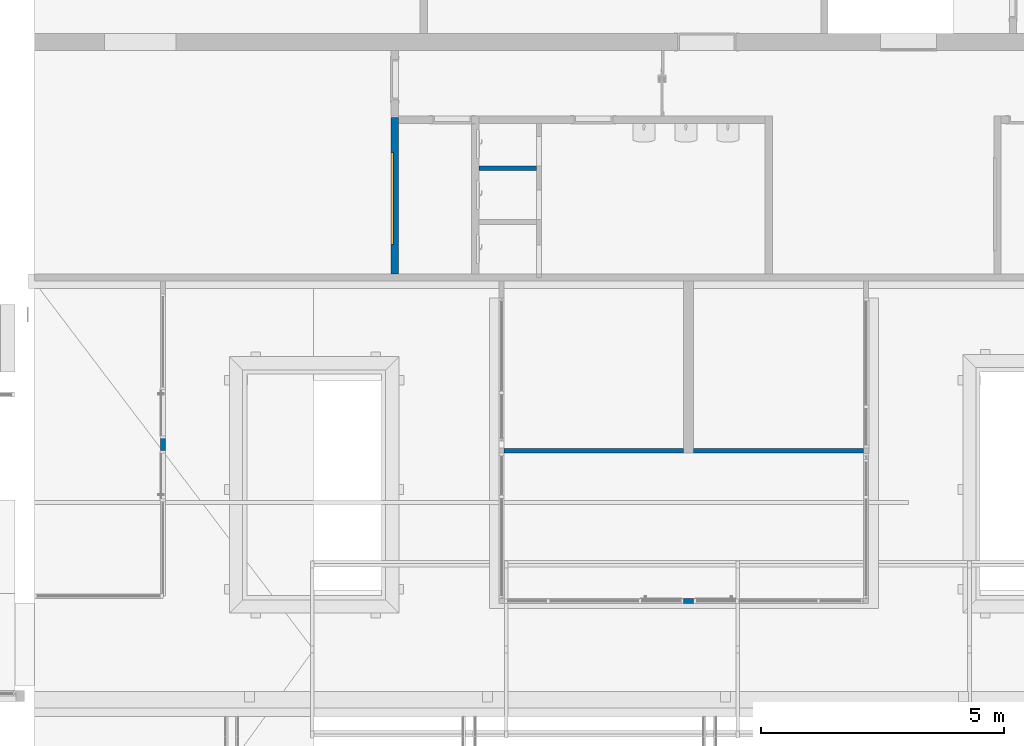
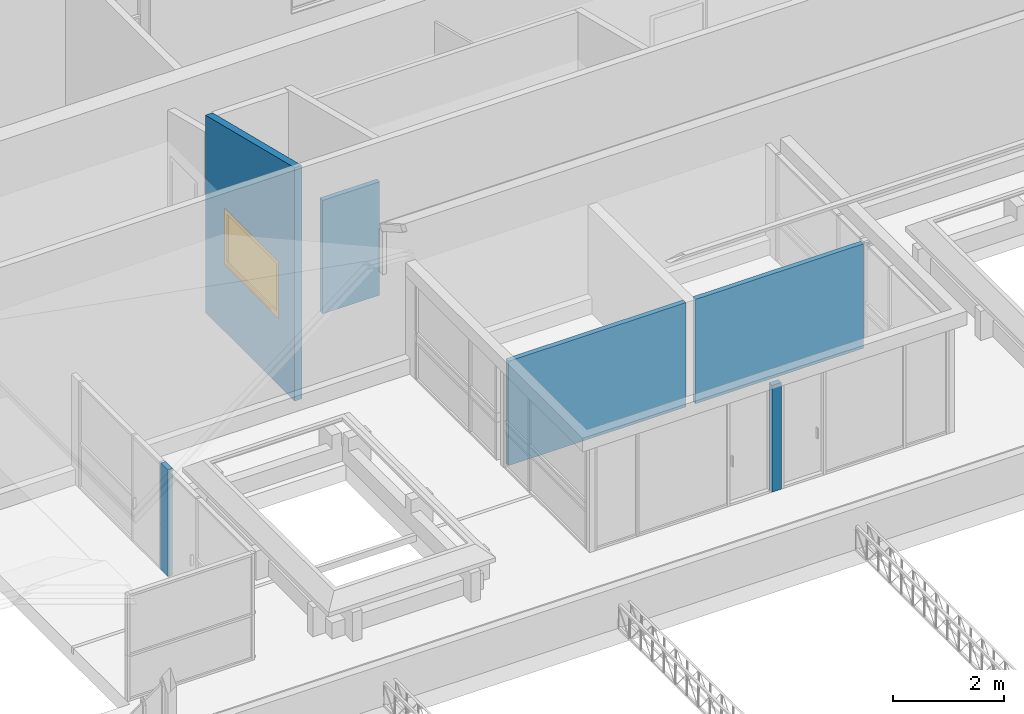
# One storey, part 118 of 153: 5 walls, 1 window, 2 openings.
"""IFC4 building model written with IfcOpenShell, lengths in metres."""

from ifc_helpers import new_model, entity, si_unit, converted_unit, derived_unit, direction, frame, origin, place, context, subcontext, project, spatial, indexed_curve, outline, extrude, polygons, source, transform, mapped, material, constituent, constituent_set, type_object, type_shapes, element, fill, save


model = new_model("IFC4")

# Units and contexts
model_context = context("Model", 3, precision=1e-05, world=origin(), true_north=direction((6.123031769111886e-17, 1.0)))
body_context = subcontext(model_context, "Body", "Model", "MODEL_VIEW")
ifc_project = project(units=[si_unit("LENGTHUNIT", "METRE"), si_unit("AREAUNIT", "SQUARE_METRE"), si_unit("VOLUMEUNIT", "CUBIC_METRE"), converted_unit("PLANEANGLEUNIT", "DEGREE", entity("IfcRatioMeasure", 0.017453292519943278), si_unit("PLANEANGLEUNIT", "RADIAN"), dimensions=[0, 0, 0, 0, 0, 0, 0]), si_unit("MASSUNIT", "GRAM", prefix="KILO"), derived_unit("MASSDENSITYUNIT", [(si_unit("MASSUNIT", "GRAM", prefix="KILO"), 1), (si_unit("LENGTHUNIT", "METRE"), -3)]), derived_unit("MOMENTOFINERTIAUNIT", [(si_unit("LENGTHUNIT", "METRE"), 4)]), si_unit("TIMEUNIT", "SECOND"), si_unit("FREQUENCYUNIT", "HERTZ"), si_unit("THERMODYNAMICTEMPERATUREUNIT", "DEGREE_CELSIUS"), derived_unit("THERMALTRANSMITTANCEUNIT", [(si_unit("MASSUNIT", "GRAM", prefix="KILO"), 1), (si_unit("THERMODYNAMICTEMPERATUREUNIT", "KELVIN"), -1), (si_unit("TIMEUNIT", "SECOND"), -3)]), derived_unit("VOLUMETRICFLOWRATEUNIT", [(si_unit("LENGTHUNIT", "METRE"), 3), (si_unit("TIMEUNIT", "SECOND"), -1)]), derived_unit("MASSFLOWRATEUNIT", [(si_unit("MASSUNIT", "GRAM", prefix="KILO"), 1), (si_unit("TIMEUNIT", "SECOND"), -1)]), derived_unit("ROTATIONALFREQUENCYUNIT", [(si_unit("TIMEUNIT", "SECOND"), -1)]), si_unit("ELECTRICCURRENTUNIT", "AMPERE"), si_unit("ELECTRICVOLTAGEUNIT", "VOLT"), si_unit("POWERUNIT", "WATT"), si_unit("FORCEUNIT", "NEWTON", prefix="KILO"), si_unit("ILLUMINANCEUNIT", "LUX"), si_unit("LUMINOUSFLUXUNIT", "LUMEN"), si_unit("LUMINOUSINTENSITYUNIT", "CANDELA"), derived_unit("USERDEFINED", [(si_unit("MASSUNIT", "GRAM", prefix="KILO"), -1), (si_unit("LENGTHUNIT", "METRE"), -2), (si_unit("TIMEUNIT", "SECOND"), 3), (si_unit("LUMINOUSFLUXUNIT", "LUMEN"), 1)]), derived_unit("SOUNDPOWERUNIT", [(si_unit("MASSUNIT", "GRAM", prefix="KILO"), 1), (si_unit("LENGTHUNIT", "METRE"), 2), (si_unit("TIMEUNIT", "SECOND"), -3)]), derived_unit("SOUNDPRESSUREUNIT", [(si_unit("MASSUNIT", "GRAM", prefix="KILO"), 1), (si_unit("LENGTHUNIT", "METRE"), -1), (si_unit("TIMEUNIT", "SECOND"), -2)]), derived_unit("LINEARVELOCITYUNIT", [(si_unit("LENGTHUNIT", "METRE"), 1), (si_unit("TIMEUNIT", "SECOND"), -1)]), si_unit("PRESSUREUNIT", "PASCAL"), derived_unit("USERDEFINED", [(si_unit("LENGTHUNIT", "METRE"), -2), (si_unit("MASSUNIT", "GRAM", prefix="KILO"), 1), (si_unit("TIMEUNIT", "SECOND"), -2)]), derived_unit("LINEARFORCEUNIT", [(si_unit("MASSUNIT", "GRAM", prefix="KILO"), 1), (si_unit("LENGTHUNIT", "METRE"), 1), (si_unit("TIMEUNIT", "SECOND"), -2), (si_unit("LENGTHUNIT", "METRE"), -1)]), derived_unit("PLANARFORCEUNIT", [(si_unit("MASSUNIT", "GRAM", prefix="KILO"), 1), (si_unit("LENGTHUNIT", "METRE"), 1), (si_unit("TIMEUNIT", "SECOND"), -2), (si_unit("LENGTHUNIT", "METRE"), -2)])], contexts=[model_context])

# Site, building, storey
site_placement = place(None, origin())
site = spatial("IfcSite", under=ifc_project, at=site_placement, Name="Superficie", CompositionType="ELEMENT")
building_placement = place(site_placement, origin())
building = spatial("IfcBuilding", under=site, at=building_placement, CompositionType="ELEMENT")
storey_placement = place(building_placement, frame((0.0, 0.0, 3.5999999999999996)))
storey = spatial("IfcBuildingStorey", under=building, at=storey_placement, Name="Nivel 1", CompositionType="ELEMENT", Elevation=3.5999999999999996)

# Wall
ifc_material_1 = material(Name="Muro por defecto", Category="Varios")
wall_type_1 = type_object("IfcWallType", Name="Muro básico:Por defecto - 20 cm", PredefinedType="STANDARD")
wall_1_placement = place(storey_placement, frame((-9.173200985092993, -0.9047671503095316, 0.0), z_axis=(0.0, 0.0, 1.0), x_axis=(0.0, -1.0, 0.0)))
element("IfcWall", 1, at=wall_1_placement, inside=storey, type_object=wall_type_1, material=ifc_material_1, Name="Muro básico:Por defecto - 20 cm", ObjectType="Muro básico:Por defecto - 20 cm", PredefinedType="NOTDEFINED", context=body_context, shape_type="SweptSolid", body=[
    extrude(outline(indexed_curve([(0.10883960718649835, 0.1), (0.0, 0.1), (0.0, -0.1), (0.10883960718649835, -0.1), (0.10883960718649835, 0.1)], self_intersect=False)), origin(), (0.0, 0.0, 1.0), 2.3500000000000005),
])

# Wall, opening
wall_type_2 = type_object("IfcWallType", Name="Muro básico:Por defecto - 10 cm", PredefinedType="STANDARD")
wall_2_placement = place(storey_placement, frame((-12.96820098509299, 2.136393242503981, 0.0)))
wall_2 = element("IfcWall", 2, at=wall_2_placement, inside=storey, type_object=wall_type_2, material=ifc_material_1, Name="Muro básico:Por defecto - 10 cm", ObjectType="Muro básico:Por defecto - 10 cm", PredefinedType="NOTDEFINED", context=body_context, shape_type="SweptSolid", body=[
    extrude(outline(indexed_curve([(7.394999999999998, 0.05), (-1.610755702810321e-16, 0.05), (1.610755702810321e-16, -0.05), (7.394999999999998, -0.05), (7.394999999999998, 0.05)], self_intersect=False)), origin(), (0.0, 0.0, 1.0), 2.299999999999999),
])
opening_1_placement = place(storey_placement, frame((-12.96820098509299, 2.136393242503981, 0.0)))
element("IfcOpeningElement", 3, at=opening_1_placement, cuts=wall_2, Name="Muro básico:Por defecto - 10 cm:1", PredefinedType="OPENING", context=body_context, shape_type="SweptSolid", body=[
    extrude(outline(indexed_curve([(-1.1499999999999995, -0.05), (1.1500000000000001, -0.05), (1.1500000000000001, 0.05), (-1.1499999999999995, 0.05), (-1.1499999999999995, -0.05)], self_intersect=False)), frame((3.6949999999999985, 0.0, 1.1499999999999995), z_axis=(1.0, 0.0, 0.0), x_axis=(0.0, 0.0, -1.0)), (0.0, 0.0, 1.0), 0.2),
])

# Walls
wall_3_placement = place(storey_placement, frame((-19.993200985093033, 2.400937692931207, 0.0), z_axis=(0.0, 0.0, 1.0), x_axis=(0.0, -1.0, 0.0)))
element("IfcWall", 4, at=wall_3_placement, inside=storey, type_object=wall_type_2, material=ifc_material_1, Name="Muro básico:Por defecto - 10 cm", ObjectType="Muro básico:Por defecto - 10 cm", PredefinedType="NOTDEFINED", context=body_context, shape_type="SweptSolid", body=[
    extrude(outline(indexed_curve([(0.26000000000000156, 0.050000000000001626), (0.0, 0.050000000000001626), (0.0, -0.050000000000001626), (0.26000000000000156, -0.050000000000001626), (0.26000000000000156, 0.050000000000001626)], self_intersect=False)), origin(), (0.0, 0.0, 1.0), 2.3500000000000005),
])
wall_4_placement = place(storey_placement, frame((-13.488998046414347, 7.950829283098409, 0.0)))
element("IfcWall", 5, at=wall_4_placement, inside=storey, type_object=wall_type_2, material=ifc_material_1, Name="Muro básico:Por defecto - 10 cm", ObjectType="Muro básico:Por defecto - 10 cm", PredefinedType="NOTDEFINED", context=body_context, shape_type="SweptSolid", body=[
    extrude(outline(indexed_curve([(1.189999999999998, 0.04999999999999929), (-1.7465598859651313e-16, 0.04999999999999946), (1.7465598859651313e-16, -0.04999999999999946), (1.1899999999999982, -0.04999999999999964), (1.189999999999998, 0.04999999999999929)], self_intersect=False)), origin(), (0.0, 0.0, 1.0), 2.499999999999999),
])

# Wall, opening, window
wall_type_3 = type_object("IfcWallType", Name="Muro básico:Por defecto - 15 cm 2", PredefinedType="STANDARD")
wall_5_placement = place(storey_placement, frame((-15.223998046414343, 9.000829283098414, 0.0), z_axis=(0.0, 0.0, 1.0), x_axis=(0.0, -1.0, 0.0)))
wall_5 = element("IfcWall", 6, at=wall_5_placement, inside=storey, type_object=wall_type_3, material=ifc_material_1, Name="Muro básico:Por defecto - 15 cm 2", ObjectType="Muro básico:Por defecto - 15 cm 2", PredefinedType="NOTDEFINED", context=body_context, shape_type="Tessellation", body=[
    polygons([(-1.0828671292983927e-15, -0.07500000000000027, 0.0), (3.2249999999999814, -0.07500000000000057, -5.414335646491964e-16), (3.2249999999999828, -0.07500000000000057, 5.1445414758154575), (-1.0828671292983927e-15, -0.07500000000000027, 4.349093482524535), (0.7224999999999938, -0.07500000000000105, 1.4999999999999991), (0.7224999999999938, -0.07500000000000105, 2.7000000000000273), (2.6224999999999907, -0.07499999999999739, 2.7000000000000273), (2.6224999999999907, -0.07499999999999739, 1.4999999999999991), (-1.0828671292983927e-15, 0.07500000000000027, 0.0), (-1.0828671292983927e-15, 0.07500000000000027, 4.349093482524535), (3.2249999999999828, 0.07499999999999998, 5.1445414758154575), (3.2249999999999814, 0.07499999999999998, -5.414335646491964e-16), (0.12499999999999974, 0.07500000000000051, 0.0), (0.7224999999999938, 0.0749999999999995, 1.4999999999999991), (2.6224999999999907, 0.07500000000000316, 1.4999999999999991), (2.6224999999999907, 0.07500000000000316, 2.7000000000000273), (0.7224999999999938, 0.0749999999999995, 2.7000000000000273)], [[[1, 2, 3, 4], [5, 6, 7, 8]], [[9, 10, 11, 12, 13], [14, 15, 16, 17]], [[2, 12, 11, 3]], [[2, 1, 9, 13, 12]], [[4, 3, 11, 10]], [[1, 4, 10, 9]], [[6, 5, 14, 17]], [[7, 6, 17, 16]], [[8, 7, 16, 15]], [[5, 8, 15, 14]]], closed=True),
])
opening_2_placement = place(wall_5_placement, frame((0.7224999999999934, -0.07500000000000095, 1.5000000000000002)))
opening_2 = element("IfcOpeningElement", 7, at=opening_2_placement, cuts=wall_5, Name="Ventana simple fija con cubrejuntas interior:1900x 1200mm 2:1", PredefinedType="OPENING", context=body_context, shape_type="SweptSolid", body=[
    extrude(outline(indexed_curve([(0.0, -5.790623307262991e-33), (1.2000000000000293, -5.790623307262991e-33), (1.2000000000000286, 1.8999999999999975), (0.0, 1.8999999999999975), (0.0, -5.790623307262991e-33)], self_intersect=False)), frame((0.0, 0.0, 0.0), z_axis=(0.0, 1.0, 0.0), x_axis=(0.0, 0.0, 1.0)), (0.0, 0.0, 1.0), 0.14999999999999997),
])
ifc_material_2 = material(Name="Madera - Castaño", Category="Madera")
ifc_constituent_1 = constituent(ifc_material_2, Name="Madera - Castaño", Category="Madera")
ifc_material_3 = material(Name="Vidrio", Category="Vidrio")
ifc_constituent_2 = constituent(ifc_material_3, Name="Vidrio", Category="Vidrio")
ifc_constituent_set_1 = constituent_set(constituents=[ifc_constituent_1, ifc_constituent_2], Name="MaterialConstituentSet")
ifc_constituent_3 = constituent(ifc_material_2, Name="Marco/montante", Category="Madera")
ifc_constituent_4 = constituent(ifc_material_3, Name="Cristal", Category="Vidrio")
ifc_constituent_set_2 = constituent_set(constituents=[ifc_constituent_3, ifc_constituent_4], Name="MaterialConstituentSet")
window_type = type_object("IfcWindowType", Name="Ventana simple fija con cubrejuntas interior:1900x 1200mm 2", PartitioningType="NOTDEFINED", PredefinedType="WINDOW", material=ifc_constituent_set_2)
shared_shape = source(origin(), body_context, "Body", "Tessellation", [
    polygons([(1.8999999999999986, 0.04999999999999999, 1.1999999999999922), (1.899999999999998, -1.6919798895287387e-17, 1.1999999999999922), (1.899999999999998, -6.446443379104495e-15, -6.767919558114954e-16), (1.899999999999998, 0.0499999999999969, -6.767919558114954e-16), (0.0, -1.6919798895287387e-17, 1.1999999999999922), (0.0, -4.390687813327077e-15, -6.767919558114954e-16), (0.03500000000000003, -1.6919798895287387e-17, 1.164999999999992), (1.8649999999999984, -1.6919798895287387e-17, 1.164999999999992), (1.8649999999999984, -1.6919798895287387e-17, 0.05499999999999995), (0.03500000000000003, -1.6919798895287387e-17, 0.05499999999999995), (0.0, 0.04999999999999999, -6.767919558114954e-16), (-1.353583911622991e-16, 0.04999999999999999, 1.1999999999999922), (1.8399999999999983, 0.04999999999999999, 1.1399999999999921), (0.060000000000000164, 0.04999999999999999, 1.1399999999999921), (0.060000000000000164, 0.04999999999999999, 0.08000000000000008), (1.839999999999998, 0.04999999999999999, 0.07999999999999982), (1.8399999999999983, 0.03999999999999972, 1.1399999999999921), (1.8399999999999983, 0.03999999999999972, 0.07999999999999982), (0.060000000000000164, 0.03999999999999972, 0.08000000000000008), (0.060000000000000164, 0.03999999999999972, 1.1399999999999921), (1.8649999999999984, 0.03999999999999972, 1.164999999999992), (0.03500000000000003, 0.03999999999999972, 1.164999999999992), (0.03500000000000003, 0.03999999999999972, 0.05499999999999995), (1.8649999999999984, 0.03999999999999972, 0.05499999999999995)], [[[1, 2, 3, 4]], [[3, 2, 5, 6], [7, 8, 9, 10]], [[6, 11, 4, 3]], [[11, 12, 1, 4], [13, 14, 15, 16]], [[17, 13, 16, 18]], [[18, 16, 15, 19]], [[21, 22, 23, 24], [20, 17, 18, 19]], [[8, 21, 24, 9]], [[9, 24, 23, 10]], [[14, 20, 19, 15]], [[22, 7, 10, 23]], [[5, 12, 11, 6]], [[12, 5, 2, 1]], [[20, 14, 13, 17]], [[7, 22, 21, 8]]], closed=True),
    polygons([(1.8400000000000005, -1.921243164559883e-14, 1.1399999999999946), (1.8400000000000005, 0.026000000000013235, 1.1399999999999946), (1.8400000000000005, 0.026000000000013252, 0.07999999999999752), (1.8400000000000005, -1.921243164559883e-14, 0.07999999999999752), (1.8650000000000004, 0.02600000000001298, 1.1649999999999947), (1.8650000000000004, 0.02600000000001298, 0.054999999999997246), (0.034999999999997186, 0.02600000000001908, 0.05499999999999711), (0.034999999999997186, 0.02600000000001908, 1.1649999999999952), (0.05999999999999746, 0.026000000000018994, 1.1399999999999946), (0.05999999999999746, 0.026000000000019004, 0.07999999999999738), (0.0599999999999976, -1.3273582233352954e-14, 0.07999999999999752), (0.05999999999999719, -1.3282042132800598e-14, 1.1399999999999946), (0.034999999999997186, -1.3188983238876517e-14, 1.1649999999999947), (0.034999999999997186, -1.3188983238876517e-14, 0.054999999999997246), (1.8650000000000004, -1.9110912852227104e-14, 0.054999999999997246), (1.8650000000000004, -1.912783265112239e-14, 1.1649999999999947)], [[[1, 2, 3, 4]], [[5, 6, 7, 8], [9, 10, 3, 2]], [[4, 3, 10, 11]], [[13, 14, 15, 16], [1, 4, 11, 12]], [[5, 16, 15, 6]], [[6, 15, 14, 7]], [[11, 10, 9, 12]], [[7, 14, 13, 8]], [[12, 9, 2, 1]], [[8, 13, 16, 5]]], closed=True),
    polygons([(0.04499999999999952, 0.026000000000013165, 0.06499999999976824), (0.04499999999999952, 0.04000000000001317, 0.06499999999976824), (1.8549999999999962, 0.04000000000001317, 0.06499999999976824), (1.8549999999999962, 0.026000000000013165, 0.06499999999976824), (0.04499999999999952, 0.026000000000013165, 1.1549999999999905), (0.04499999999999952, 0.04000000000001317, 1.1549999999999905), (1.8549999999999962, 0.04000000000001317, 1.1549999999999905), (1.8549999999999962, 0.026000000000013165, 1.1549999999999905)], [[[1, 2, 3, 4]], [[5, 6, 2, 1]], [[6, 7, 3, 2]], [[7, 8, 4, 3]], [[8, 5, 1, 4]], [[5, 8, 7, 6]]], closed=True),
    polygons([(1.889999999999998, -0.004999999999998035, 1.1899999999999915), (1.889999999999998, -1.6919798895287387e-17, 1.1899999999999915), (1.8899999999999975, -1.6919798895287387e-17, 0.009999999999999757), (1.889999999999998, -0.004999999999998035, 0.009999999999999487), (1.9249999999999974, -1.6919798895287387e-17, 1.2249999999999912), (1.9249999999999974, -1.6919798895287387e-17, -0.025000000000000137), (-0.02499999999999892, -1.6919798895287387e-17, -0.025000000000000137), (-0.02499999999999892, -1.6919798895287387e-17, 1.2249999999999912), (0.010000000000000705, -1.6919798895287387e-17, 1.1899999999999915), (0.010000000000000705, -1.6919798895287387e-17, 0.009999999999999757), (0.010000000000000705, -0.004999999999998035, 0.009999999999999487), (0.010000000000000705, -0.004999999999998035, 1.1899999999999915), (-0.02499999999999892, -0.004999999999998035, 1.2249999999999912), (-0.02499999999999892, -0.004999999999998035, -0.025000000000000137), (1.9249999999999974, -0.004999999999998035, -0.025000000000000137), (1.9249999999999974, -0.004999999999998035, 1.2249999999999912)], [[[1, 2, 3, 4]], [[5, 6, 7, 8], [9, 10, 3, 2]], [[4, 3, 10, 11]], [[13, 14, 15, 16], [1, 4, 11, 12]], [[5, 16, 15, 6]], [[6, 15, 14, 7]], [[11, 10, 9, 12]], [[7, 14, 13, 8]], [[12, 9, 2, 1]], [[8, 13, 16, 5]]], closed=True),
])
type_shapes(window_type, [shared_shape])
window_placement = place(opening_2_placement, origin())
window = element("IfcWindow", 8, at=window_placement, inside=storey, type_object=window_type, material=ifc_constituent_set_1, Name="Ventana simple fija con cubrejuntas interior:1900x 1200mm 2", ObjectType="Ventana simple fija con cubrejuntas interior:1900x 1200mm 2", OverallHeight=1.2000000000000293, OverallWidth=1.8999999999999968, PartitioningType="NOTDEFINED", PredefinedType="WINDOW", context=body_context, shape_type="MappedRepresentation", body=[
    mapped(shared_shape, transform((0.0, 0.0, 0.0), scale=1.0)),
])
fill(opening_2, window)

save(model, "model.ifc")
